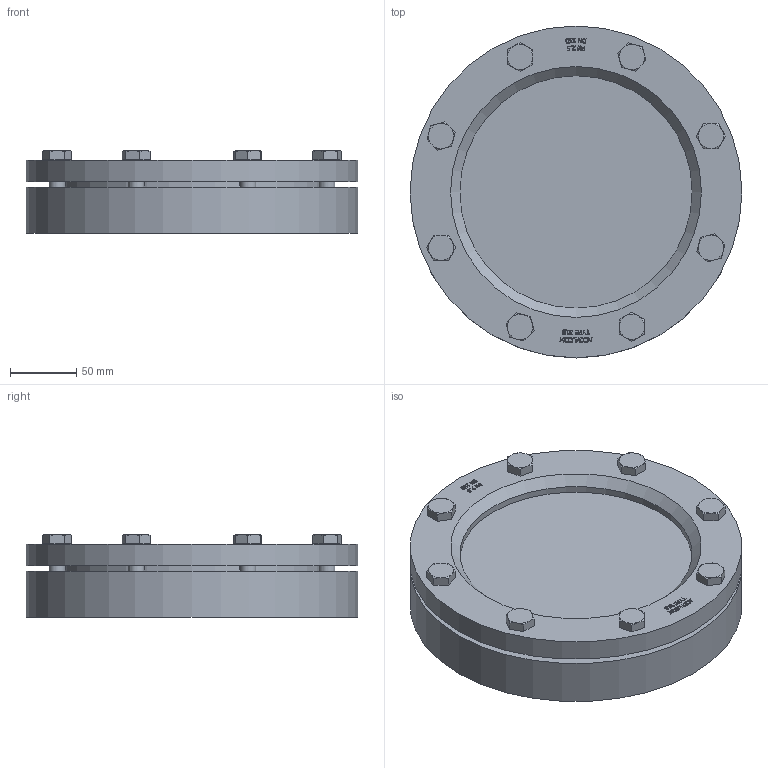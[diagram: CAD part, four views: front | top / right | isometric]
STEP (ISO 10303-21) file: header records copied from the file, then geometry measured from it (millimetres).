
FILE_DESCRIPTION(/* description */ (''),/* implementation_level */ '2;1');
FILE_NAME(/* name */ 'W:\Konstruktion_ACI\318\_STEP\ACI-318-150.stp',/* time_stamp */ '2022-03-02T18:05:15+01:00',/* author */ ('Travnicek'),/* organization */ (''),/* preprocessor_version */ 'ST-DEVELOPER v16.1',/* originating_system */ 'Autodesk Inventor 2016',/* authorisation */ '');
FILE_SCHEMA (('AUTOMOTIVE_DESIGN { 1 0 10303 214 3 1 1 }'));
Length unit declared in the file: centimetre
Products named in the file (1): ACI-318-150.stp
Bounding box: 250 x 250 x 62.5 mm (x, y, z)
Volume: 1868549.1 mm3; surface area: 192642.8 mm2
Topology: 1 solids, 1 shells, 539 faces, 1396 edges, 914 vertices
Faces by surface type: plane 298, bspline 170, cone 50, cylinder 21
Full cylindrical faces by diameter (mm): 12 x8, 17.2 x8, 175 x2, 200 x1, 250 x2
Entity records: 17551 total; most frequent: CARTESIAN_POINT 5229, ORIENTED_EDGE 2746, DIRECTION 1769, EDGE_CURVE 1373, VERTEX_POINT 914, LINE 845, VECTOR 845, EDGE_LOOP 633
